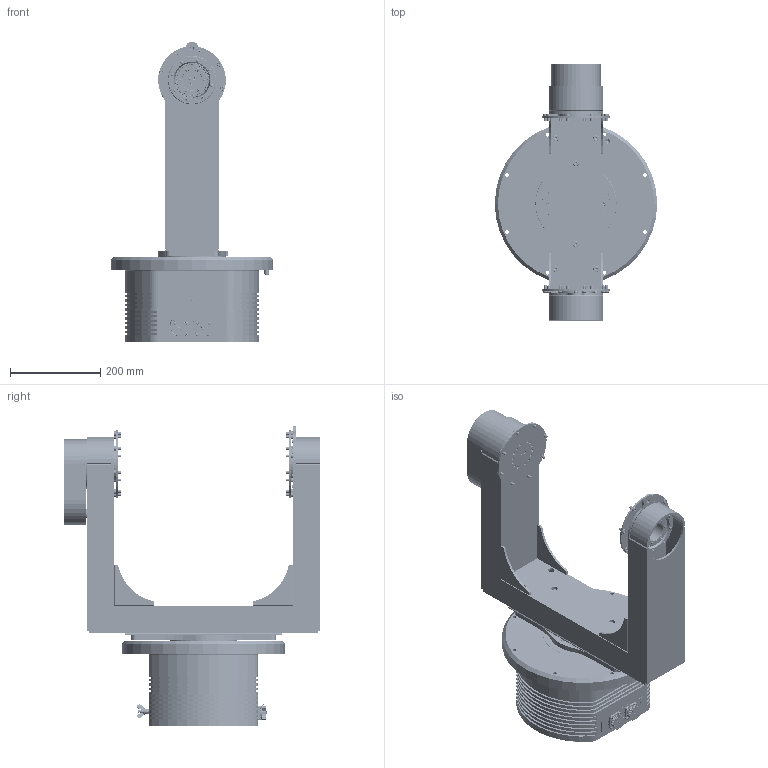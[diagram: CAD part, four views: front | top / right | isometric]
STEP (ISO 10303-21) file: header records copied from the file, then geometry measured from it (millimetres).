
FILE_DESCRIPTION(/* description */ (''),/* implementation_level */ '2;1');
FILE_NAME(/* name */ 'D:\Project\TL.0400 ОПУ\TL.0400 ОПУ облегченная.stp',/* time_stamp */ '2025-06-10T15:13:55+03:00',/* author */ ('znnsp'),/* organization */ (''),/* preprocessor_version */ 'ST-DEVELOPER v18.1',/* originating_system */ 'Autodesk Inventor 2021',/* authorisation */ '');
FILE_SCHEMA (('AUTOMOTIVE_DESIGN { 1 0 10303 214 3 1 1 }'));
Products named in the file (89): Кронштейн сварной 
с осью наклона; Ось наклона 
в сборе; Корпус оси 
наклона; DIN 912 - M6 x 60; Манжет 2-150x180x15 ГОСТ 
8752-79; Кронштейн стальной; DIN 912 - M3 x 12; Cable Glands Metal_M25; WY24-Z; WY24-Z_1; Клемма для тросика 
для разъёма WY24-Z; Тросик для 
разъёма WY24-Z_MIR; DIN 7985 (Z) - M3x8-Z; Крышка; Шильд разъёма 
1; Шильд разъёма 
1_1; WS10-0.8 (40036); DIN 912 - M6 x 25; Шильд TL.0008-003; TL.0320-044 Болт заземления 
резьбой; DIN 315 - M6; DIN 125 - A 6,4; DIN 934 - M6; ISO 2338 - 10 h8 x 30; DIN 912 - M8 x 20; Статор оси 
поворота в сборе; TL.0250-011 Статор оси 
наклона; Электродвигатель 
JCM69x18-H1-T1 (Статор); NONE; Заливка JCM69x10; Сборка; Деталь; Pin PCB1.5mm; PCB_CoGr_In; PCB_PhasePin; NONE_1; NONE_1_1; NONE_2; NONE_3; ISO 8752 - 3,5 x 32  A ...
Assembly tree (335 placements, depth 6):
  Кронштейн сварной 
с осью наклона
    Ось наклона 
в сборе
      Корпус оси 
наклона
      DIN 912 - M6 x 60  x12
      Манжет 2-150x180x15 ГОСТ 
8752-79
      Кронштейн стальной
      WS10-0.8 (40036)_1  x3
      DIN 912 - M3 x 12  x3
      Cable Glands Metal_M25
      WY24-Z  x2
        WY24-Z_1
        Клемма для тросика 
для разъёма WY24-Z
        Тросик для 
разъёма WY24-Z_MIR
      DIN 7985 (Z) - M3x8-Z  x8
      Крышка
      ISO 7046-1  - M3 x 6 - 4.8 - Z  x20
      Шильд разъёма 
1
      Шильд разъёма 
1_1
      WS10-0.8 (40036)  x16
      DIN 912 - M6 x 25  x16
      Шильд TL.0008-003
      TL.0320-044 Болт заземления 
резьбой
      DIN 315 - M6
      DIN 125 - A 6,4  x4
      DIN 934 - M6  x3
      ISO 2338 - 10 h8 x 30
    DIN 912 - M8 x 20  x6
    Статор оси 
поворота в сборе
      TL.0250-011 Статор оси 
наклона
      Электродвигатель 
JCM69x18-H1-T1 (Статор)
        NONE
          Заливка JCM69x10
          Сборка
            Деталь
            Pin PCB1.5mm  x8
            PCB_CoGr_In  x12
            PCB_PhasePin  x3
            NONE_1  x3
            NONE_1_1  x3
            NONE_2  x3
            NONE_3  x6
      ISO 8752 - 3,5 x 32  A  x2
      HMHS-25-120-I(G1104078G)
      DIN 912 - M3 x 25  x24
      TL.0253-019 Вал с ротором 
в сборе
        TL.0250-001 Вал
        Магнитопровод 
ротора_1  x2
      DIN 912 - M3 x 8  x9
      Манжет 2-75x100x10 ГОСТ 
8752-79
      TL.0250-026 Фланец оси 
наклона
      TL.0320-021 Вал энкодера 
оси наклона
      TL.0210-002 Ротор
        TL.0210-004 ПП ротора
        TL.0210-005 Корпус
      BS 290 SKF - SKF 61801-RZ
      TL.0320-018 Статор энкодера 
оси наклона
      DIN 912 - M2,5 x 6  x8
      TL.0210-001 Статор
        TL.0210-003 ПП статора
        TL.0210-006 Корпус
Bounding box: 360 x 568.9 x 666 mm (x, y, z)
Volume: 11175121.9 mm3; surface area: 2385367.8 mm2
Topology: 336 solids, 426 shells, 9031 faces, 22891 edges, 14879 vertices
Faces by surface type: plane 4354, cylinder 2068, cone 1521, torus 543, bspline 347, sphere 198
Full cylindrical faces by diameter (mm): 0.8 x8, 1 x38, 1.5 x4, 1.8 x8, 2 x8, 2.013 x8, 2.459 x95, 2.5 x8, 2.693 x32, 2.75 x26, 2.8 x8, 2.85 x10, 3 x169, 3.1 x3, 3.12 x2, 3.2 x26, 3.242 x18, 3.3 x24, 3.4 x3, 3.5 x37, 4 x22, 4.1 x12, 4.134 x4, 4.3 x6, 4.46 x2, 4.5 x8, 4.917 x17, 5 x1, 5.5 x68, 6 x86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
Entity records: 159678 total; most frequent: CARTESIAN_POINT 50287, DIRECTION 21631, ORIENTED_EDGE 21368, EDGE_CURVE 10881, AXIS2_PLACEMENT_3D 8090, VERTEX_POINT 7359, LINE 5451, VECTOR 5451
